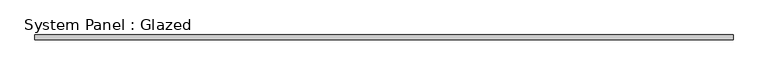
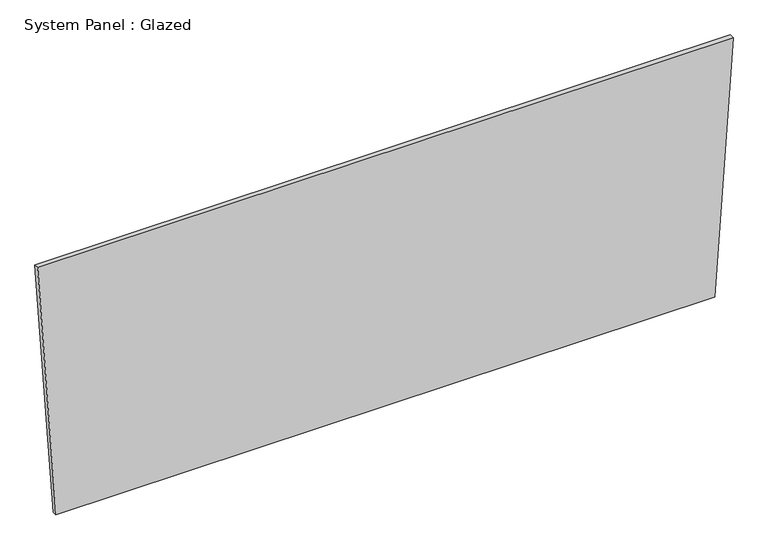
"""IFC4 building model written with IfcOpenShell, lengths in millimetres: plate geometry, System Panel : Glazed."""

from ifc_helpers import new_model, si_unit, frame, origin, place, context, project, spatial, polyline, outline, extrude, source, transform, mapped, element, save


def system_panel_glazed_248316cd(model_context):
    return source(origin(), model_context, "Body", "SweptSolid", [
        extrude(outline(polyline([(0.0, -1790.6063981), (0.0, 1790.6063981), (1456.932163, 1890.4747616), (1456.932163, -1890.4747616), (0.0, -1790.6063981)])), frame((0.0, 19.05, 0.0), z_axis=(0.0, 1.0, 0.0), x_axis=(0.0, 0.0, 1.0)), (0.0, 0.0, 1.0), 25.4),
    ])


if __name__ == "__main__":
    model = new_model("IFC4")
    model_context = context("Model", 3, world=origin())
    ifc_project = project(units=[si_unit("LENGTHUNIT", "METRE", prefix="MILLI")], contexts=[model_context])
    site = spatial("IfcSite", under=ifc_project)
    building = spatial("IfcBuilding", under=site)
    placement = place(None, origin())
    system_panel_glazed_shape = system_panel_glazed_248316cd(model_context)
    element("IfcPlate", 1, ObjectType="System Panel : Glazed", at=placement, inside=building, context=model_context, shape_type="MappedRepresentation", body=[
        mapped(system_panel_glazed_shape, transform((0.0, 0.0, 0.0), x_axis=(1.0, 0.0, 0.0), y_axis=(0.0, 1.0, 0.0), z_axis=(0.0, 0.0, 1.0))),
    ])
    save(model, "model.ifc")
